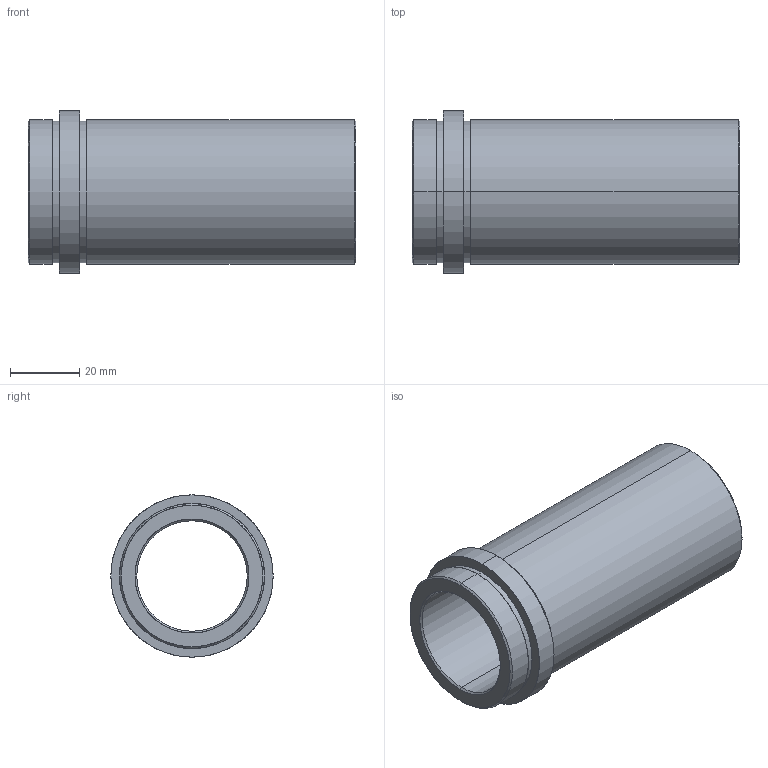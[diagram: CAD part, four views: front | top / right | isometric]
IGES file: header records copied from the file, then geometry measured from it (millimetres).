
Start section: SolidWorks IGES FILE using analytic representation for surfaces
Global section: file name: D:\zzzzz\Delta\D21\32\D21 - 32x86.IGS; native system: SolidWorks 2004 by SolidWorks Corporation; preprocessor: Version 5.3; author: Hkn; date: 080326.193214; units: millimetre
Bounding box: 95 x 47 x 47 mm (x, y, z)
Surface area: 24153 mm2 (no closed solid volume)
Topology: 0 solids, 0 shells, 26 faces, 848 edges, 848 vertices
Faces by surface type: revolution 20, bspline 6
